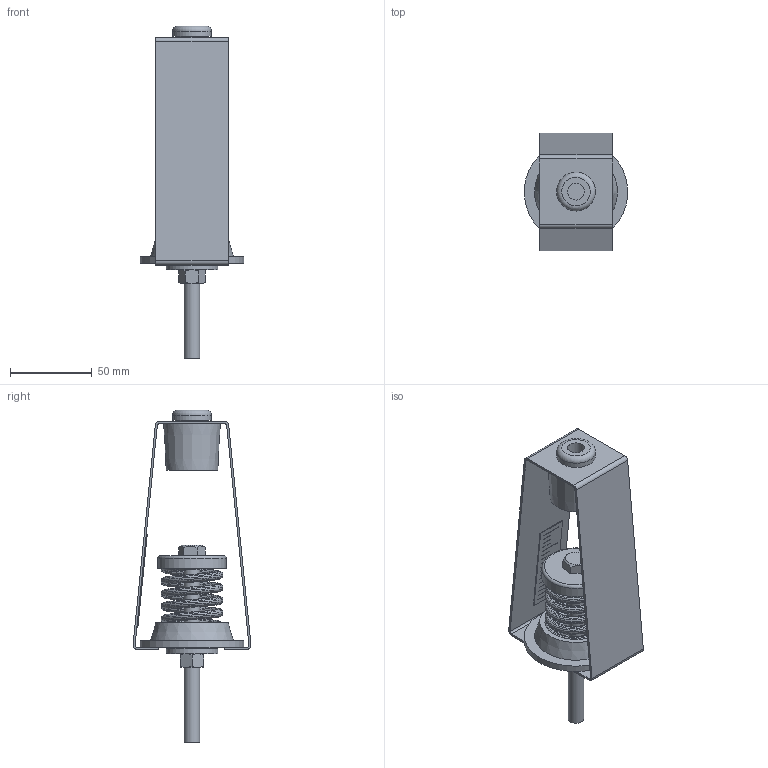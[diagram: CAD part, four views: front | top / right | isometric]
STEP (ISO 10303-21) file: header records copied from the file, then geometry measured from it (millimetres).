
FILE_DESCRIPTION((''),'2;1');
FILE_NAME('C:\2012_Work\Designs\HANGER BOXES\30N\PC30N-X-210 (REVIT).stp','2013-10-16T10:38:13',('KShiels'),(''),'Autodesk Inventor 2012','Autodesk Inventor 2012','');
FILE_SCHEMA(('AUTOMOTIVE_DESIGN { 1 0 10303 214 1 1 1 1 }'));
Length unit declared in the file: inch
Products named in the file (17): PC30N-X-210 (REVIT); 30N-X-210 PC; A-22045-5 30N-X FRAME ASSY; A-22045-4A; A-22045-4B; A-16118-5R LDS HD HANGER ELEMENT; A-16118-5R; 1.125ODx.4375IDx; A-13983-6R LDS HANGER CUP X; A-13983-6R LDS CUP X; A-13983-6R WASHER X; A-22839-1 STEEL CUP; X-210 SPRING PC (revit); washer hanger 1.25od x 0.375 id A-32560; Hex Nut - Inch 3/8 - 16; BOLT 0.375-16x4.5 (FULLY THREADED); PC SCALE
Assembly tree (16 placements, depth 4):
  PC30N-X-210 (REVIT)
    30N-X-210 PC
      A-22045-5 30N-X FRAME ASSY
        A-22045-4A
        A-22045-4B
      A-16118-5R LDS HD HANGER ELEMENT
        A-16118-5R
        1.125ODx.4375IDx
      A-13983-6R LDS HANGER CUP X
        A-13983-6R LDS CUP X
        A-13983-6R WASHER X
      A-22839-1 STEEL CUP
      X-210 SPRING PC (revit)
    washer hanger 1.25od x 0.375 id A-32560
    Hex Nut - Inch 3/8 - 16
    BOLT 0.375-16x4.5 (FULLY THREADED)
    PC SCALE
Bounding box: 63.3 x 72.3 x 203.52 mm (x, y, z)
Volume: 94641.7 mm3; surface area: 78074.1 mm2
Topology: 12 solids, 12 shells, 269 faces, 611 edges, 403 vertices
Faces by surface type: plane 176, cylinder 48, bspline 26, cone 17, torus 2
Full cylindrical faces by diameter (mm): 7.798 x1, 9.525 x2, 10.319 x2, 11.113 x1, 17.463 x2, 20.637 x1, 20.638 x1, 23.813 x1, 25.4 x1, 26.987 x1, 26.988 x1, 28.575 x2, 31.75 x1, 38.1 x1, 38.894 x1, 39.687 x1, 39.688 x1, 41.906 x1, 63.5 x1
Entity records: 13799 total; most frequent: CARTESIAN_POINT 7477, DIRECTION 1162, ORIENTED_EDGE 1154, EDGE_CURVE 577, VERTEX_POINT 399, AXIS2_PLACEMENT_3D 393, VECTOR 376, LINE 376
